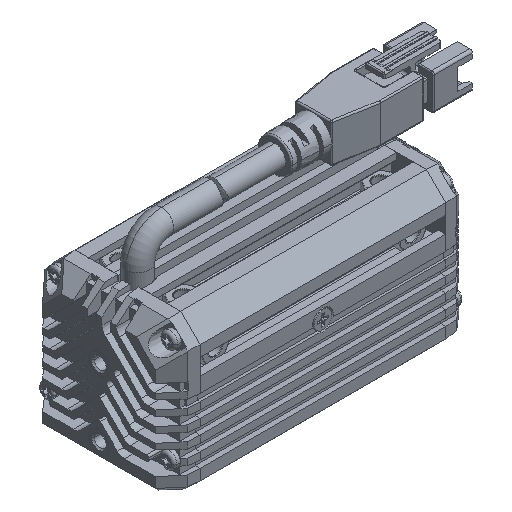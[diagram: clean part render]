
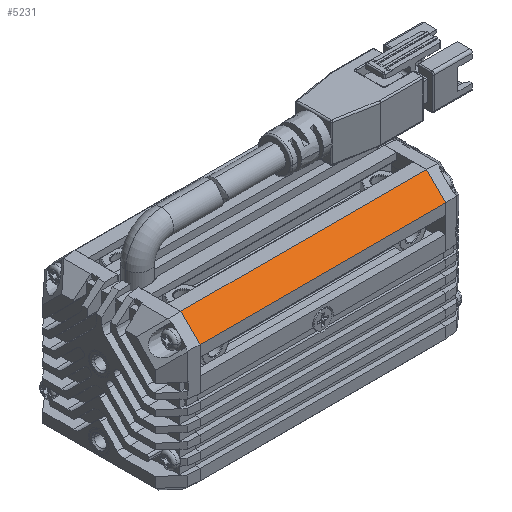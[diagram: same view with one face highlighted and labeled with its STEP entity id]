
A CAD part, isometric view. The second image highlights one B-rep face of the part: STEP entity #5231.
In plain terms, the highlighted planar face has unit normal (0, -0.707, 0.707).
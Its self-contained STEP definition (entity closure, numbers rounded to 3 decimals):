
#477=DIRECTION('',(0.,-0.707,-0.707));
#478=VECTOR('',#477,5.657);
#479=CARTESIAN_POINT('',(-25.5,-11.,15.));
#480=LINE('',#479,#478);
#635=DIRECTION('',(0.,-0.707,-0.707));
#636=VECTOR('',#635,5.657);
#637=CARTESIAN_POINT('',(25.5,-11.,15.));
#638=LINE('',#637,#636);
#1848=DIRECTION('',(1.,0.,0.));
#1849=VECTOR('',#1848,51.);
#1850=CARTESIAN_POINT('',(-25.5,-11.,15.));
#1851=LINE('',#1850,#1849);
#1852=DIRECTION('',(1.,0.,0.));
#1853=VECTOR('',#1852,51.);
#1854=CARTESIAN_POINT('',(-25.5,-15.,11.));
#1855=LINE('',#1854,#1853);
#2322=CARTESIAN_POINT('',(-25.5,-11.,15.));
#2323=VERTEX_POINT('',#2322);
#2324=CARTESIAN_POINT('',(-25.5,-15.,11.));
#2325=VERTEX_POINT('',#2324);
#2362=CARTESIAN_POINT('',(25.5,-11.,15.));
#2363=VERTEX_POINT('',#2362);
#2364=CARTESIAN_POINT('',(25.5,-15.,11.));
#2365=VERTEX_POINT('',#2364);
#5219=CARTESIAN_POINT('',(-25.5,-11.,15.));
#5220=DIRECTION('',(0.,-0.707,0.707));
#5221=DIRECTION('',(0.,-0.707,-0.707));
#5222=AXIS2_PLACEMENT_3D('',#5219,#5220,#5221);
#5223=PLANE('',#5222);
#5224=ORIENTED_EDGE('',*,*,#3194,.F.);
#5225=ORIENTED_EDGE('',*,*,#5214,.T.);
#5226=ORIENTED_EDGE('',*,*,#3373,.T.);
#5228=ORIENTED_EDGE('',*,*,#5227,.F.);
#5229=EDGE_LOOP('',(#5224,#5225,#5226,#5228));
#5230=FACE_OUTER_BOUND('',#5229,.F.);
#3194=EDGE_CURVE('',#2323,#2325,#480,.T.);
#3373=EDGE_CURVE('',#2363,#2365,#638,.T.);
#5214=EDGE_CURVE('',#2323,#2363,#1851,.T.);
#5227=EDGE_CURVE('',#2325,#2365,#1855,.T.);
#5231=ADVANCED_FACE('',(#5230),#5223,.T.);
